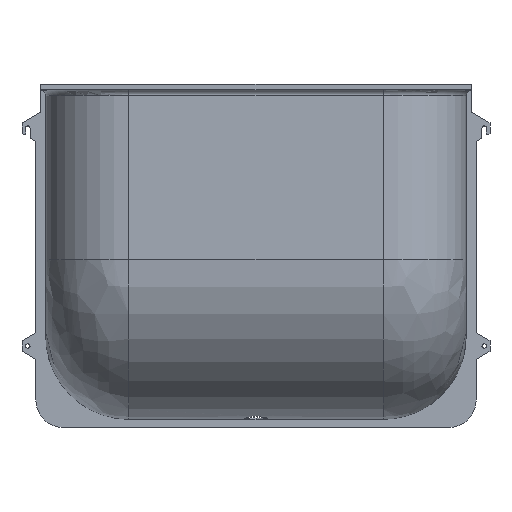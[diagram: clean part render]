
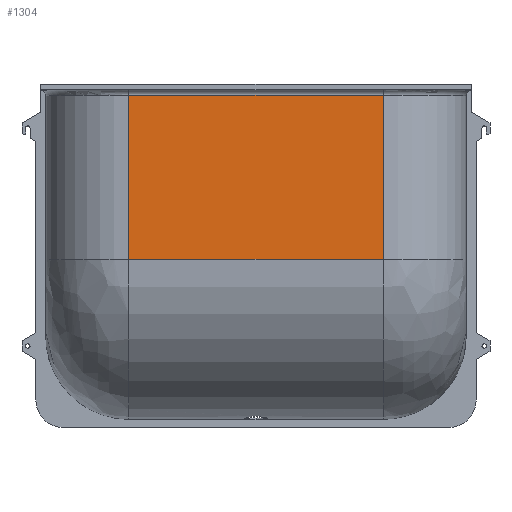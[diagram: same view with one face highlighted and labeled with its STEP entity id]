
A CAD part, top view. The second image highlights one B-rep face of the part: STEP entity #1304.
In plain terms, the highlighted planar face has unit normal (0, 0, 1).
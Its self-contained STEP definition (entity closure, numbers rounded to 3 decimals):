
#36=PLANE('',#1417);
#171=LINE('',#2193,#301);
#182=LINE('',#2234,#312);
#186=LINE('',#2293,#316);
#190=LINE('',#2344,#320);
#301=VECTOR('',#1626,920.);
#312=VECTOR('',#1661,593.);
#316=VECTOR('',#1679,920.);
#320=VECTOR('',#1687,593.);
#420=FACE_OUTER_BOUND('',#496,.T.);
#496=EDGE_LOOP('',(#1053,#1054,#1055,#1056));
#615=VERTEX_POINT('',#2177);
#619=VERTEX_POINT('',#2191);
#631=VERTEX_POINT('',#2233);
#635=VERTEX_POINT('',#2286);
#763=EDGE_CURVE('',#619,#615,#171,.T.);
#781=EDGE_CURVE('',#615,#631,#182,.T.);
#791=EDGE_CURVE('',#635,#631,#186,.T.);
#796=EDGE_CURVE('',#635,#619,#190,.T.);
#1053=ORIENTED_EDGE('',*,*,#763,.F.);
#1054=ORIENTED_EDGE('',*,*,#796,.F.);
#1055=ORIENTED_EDGE('',*,*,#791,.T.);
#1056=ORIENTED_EDGE('',*,*,#781,.F.);
#1304=ADVANCED_FACE('',(#420),#36,.T.);
#1417=AXIS2_PLACEMENT_3D('',#2345,#1688,#1689);
#1626=DIRECTION('',(1.,0.,0.));
#1661=DIRECTION('',(0.,-1.,0.));
#1679=DIRECTION('',(1.,0.,0.));
#1687=DIRECTION('',(0.,1.,0.));
#1688=DIRECTION('center_axis',(0.,0.,1.));
#1689=DIRECTION('ref_axis',(0.,-1.,0.));
#2177=CARTESIAN_POINT('',(460.,-40.,577.));
#2191=CARTESIAN_POINT('',(-460.,-40.,577.));
#2193=CARTESIAN_POINT('',(0.,-40.,577.));
#2233=CARTESIAN_POINT('',(460.,-633.,577.));
#2234=CARTESIAN_POINT('',(460.,-260.081,577.));
#2286=CARTESIAN_POINT('',(-460.,-633.,577.));
#2293=CARTESIAN_POINT('',(0.,-633.,577.));
#2344=CARTESIAN_POINT('',(-460.,-260.081,577.));
#2345=CARTESIAN_POINT('Origin',(0.,0.,577.));
